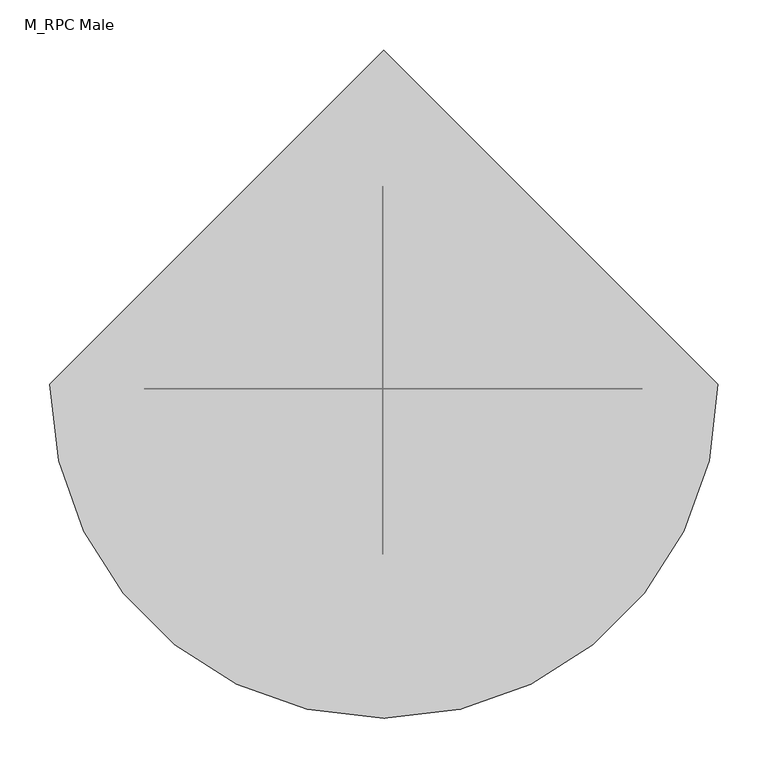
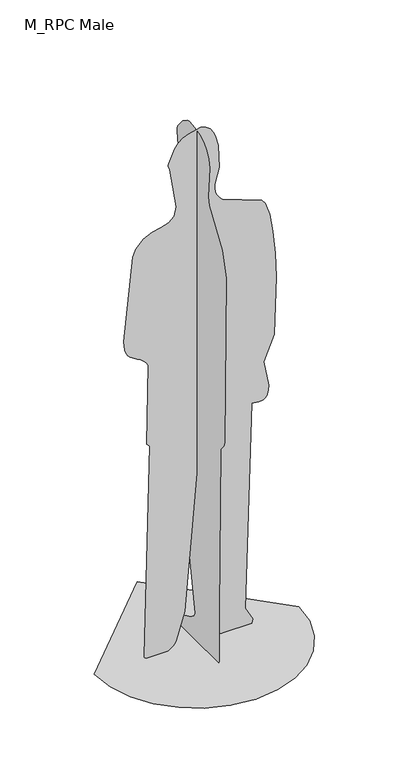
"""IFC4 building model written with IfcOpenShell, lengths in millimetres: proxy geometry, M_RPC Male : Dwayne."""

from ifc_helpers import new_model, si_unit, origin, place, context, project, spatial, triangles, source, transform, mapped, element, save


def m_rpc_male_e00c4429(model_context):
    return source(origin(), model_context, "Body", "Tessellation", [
        triangles([(-180.7519758, -4.45e-05, 5.61e-05), (-184.2427693, -8.8e-06, 2.7953145), (-186.1721755, 1.66e-05, 5.8375002), (-186.8316374, 3.35e-05, 9.127569), (-168.2846227, 8.5e-06, 733.0652109), (-173.8813015, 8.5e-06, 735.2240908), (-177.6698602, 8.1e-06, 740.93319), (-174.1985423, -8.1e-06, 1013.6682867), (-179.591309, -8.8e-06, 1024.1651751), (-188.0395216, -9.6e-06, 1032.7759867), (-198.5267085, -9.9e-06, 1040.1126028), (-210.0363257, -1.03e-05, 1046.7864687), (-221.5520472, -1.07e-05, 1053.4092476), (-232.0572199, -1.1e-05, 1060.5929661), (-240.5353907, -1.14e-05, 1068.9488514), (-245.9518842, -1.21e-05, 1078.9880642), (-249.7386988, -1.29e-05, 1091.9821838), (-252.1552483, -1.4e-05, 1106.9298906), (-253.4607645, -1.47e-05, 1122.8295742), (-224.2188539, -3.16e-05, 1405.054644), (-213.7949444, -3.31e-05, 1430.2019463), (-189.1319694, -3.46e-05, 1456.0842327), (-160.624934, -3.53e-05, 1468.8737137), (-131.9229886, -3.57e-05, 1475.6378357), (-106.6752928, -3.64e-05, 1483.4436092), (-88.5310242, -3.71e-05, 1499.3593529), (-81.1392697, -3.9e-05, 1530.4516411), (-102.942045, -4.71e-05, 1666.4696468), (-107.9472446, -4.78e-05, 1679.2650867), (-108.1474504, -4.82e-05, 1680.5741638), (-107.984815, -4.82e-05, 1682.7587688), (-107.5268306, -4.82e-05, 1685.5190655), (-106.840944, -4.86e-05, 1688.5553627), (-86.6409052, -5.11e-05, 1733.0902897), (-74.2774293, -5.19e-05, 1747.7183212), (-59.5121605, -5.26e-05, 1759.6594528), (-42.363121, -5.33e-05, 1768.7777916), (-0.9855255, -5.37e-05, 1777.9990311), (15.8808757, -5.33e-05, 1772.5528519), (29.1619555, -5.26e-05, 1761.5639877), (39.2640369, -5.19e-05, 1747.0962662), (46.5934632, -5.08e-05, 1731.2140961), (56.009163, -4.89e-05, 1695.7207684), (59.1639487, -4.41e-05, 1618.2087845), (44.4858339, -4.12e-05, 1564.7278919), (44.3096682, -4.05e-05, 1551.1862766), (46.5532813, -3.94e-05, 1537.9279289), (51.2886345, -3.86e-05, 1525.4359589), (58.5876575, -3.83e-05, 1514.1926044), (68.5223164, -3.75e-05, 1504.6808304), (198.4030241, -3.46e-05, 1454.5808361), (210.7095586, -3.38e-05, 1440.8296406), (224.9005892, -3.13e-05, 1397.8447643), (235.5369131, -2.72e-05, 1333.6069702), (242.7580384, -2.28e-05, 1256.1532677), (246.7032373, -1.77e-05, 1173.5211021), (240.2781571, -5.9e-06, 974.9290089), (206.081389, -1.1e-06, 891.6222479), (221.1961823, 4e-06, 805.6633232), (220.4650678, 5.1e-06, 788.6200321), (214.9948893, 6.3e-06, 771.8045614), (210.3552016, 6.6e-06, 765.7300776), (204.1668257, 6.6e-06, 762.0919275), (196.8959759, 7e-06, 760.3982082), (189.0090118, 7e-06, 760.1573799), (180.9721295, 7e-06, 760.8774668), (173.2515615, 6.6e-06, 762.0669291), (166.3135766, 6.6e-06, 763.2339363), (144.8011179, 4.49e-05, 59.4752896), (168.6275342, 4.74e-05, 15.3365843), (166.1985945, -4.45e-05, 5.61e-05), (66.1332089, -4.45e-05, 5.61e-05), (49.8425018, -1.03e-05, 3.9765591), (39.0246256, 1.36e-05, 14.0353), (32.5983009, 2.91e-05, 28.3297116), (-2.7441046, 9.2e-06, 720.0458748), (-54.0725034, 1.03e-05, 117.9433278), (-81.3720135, -2.13e-05, 28.0047427), (-85.5237041, -2.69e-05, 19.9172686), (-91.2433859, -3.27e-05, 12.5691172), (-99.2451413, -3.86e-05, 5.9378887), (-110.2431982, -4.45e-05, 5.61e-05), (-13.8237406, -127.6718764, 9.9621145), (-13.8237974, -127.2617633, 182.0842528), (-13.8237815, -135.2635732, 744.8695776), (-13.8237815, -136.4149928, 748.3460369), (-13.8237815, -139.3954704, 752.5736132), (-13.8237815, -143.4944026, 757.5058702), (-13.8237815, -148.0010861, 763.0962994), (-13.8237815, -152.2049901, 769.2983917), (-13.8237792, -155.3953659, 776.0656385), (-13.8237792, -156.8616281, 783.3516764), (-13.8237622, -165.9465024, 1358.6137287), (-13.8237599, -143.2743216, 1442.0927902), (-13.8237576, -71.1145501, 1552.8585583), (-13.8237576, -64.3401725, 1580.5206779), (-13.8237542, -73.5344014, 1684.7952724), (-13.8237531, -67.2131212, 1712.2161278), (-13.8237531, -55.241223, 1734.9070393), (-13.8237531, -37.9260212, 1752.7537697), (-13.8237531, -15.5748771, 1765.6426632), (-13.8237531, 11.5049084, 1773.4593372), (-13.8237531, 43.0059914, 1776.090136), (-13.8237531, 55.0860226, 1772.9164925), (-13.8237542, 79.7038559, 1756.3218658), (-13.8237554, 107.4896145, 1722.3477768), (-13.8237554, 111.5711695, 1713.01012), (-13.8237554, 112.2229284, 1702.3019073), (-13.8237588, 99.0832235, 1611.9284992), (-13.8237588, 100.6007272, 1597.8206394), (-13.8237599, 96.755177, 1579.0656796), (-13.8237622, 31.1784566, 1488.4592915), (-13.8237735, 125.7984261, 1146.7472277), (-13.8237735, 134.1993577, 1137.675107), (-13.8237747, 184.2799037, 1119.3925747), (-13.8237747, 194.4649651, 1111.9394686), (-13.8237747, 201.1343255, 1100.3801451), (-13.8237769, 203.5508567, 1084.2058416), (-13.8237769, 200.9674025, 1068.9640394), (-13.8237769, 194.2820729, 1055.8707253), (-13.8237769, 184.3928146, 1046.1415226), (-13.8237769, 172.1978105, 1040.992709), (-13.8237769, 158.595007, 1041.6399078), (-13.8237769, 144.48246, 1049.299106), (-13.8237838, 123.0429529, 785.7648285), (-13.823786, 116.906318, 707.2429499), (-13.8237928, 10.2023683, 90.6853168), (-13.823794, 17.983895, 76.1481908), (-13.8237951, 35.4714404, 63.806743), (-13.8238042, 104.5965316, 31.8661463), (-13.8238053, 119.3344402, 20.2173661), (-13.8238076, 122.9915025, 6.7192091), (-13.8238042, 122.0607091, 4.3674998), (-13.8237894, 120.3451706, 2.3141478), (-13.8237724, 119.1853577, 1.4285653), (-13.8237474, 117.8199432, 0.6534771), (-13.8237099, 116.2458387, 5.61e-05), (-13.8237077, -124.501612, 0.0), (-348.4734607, 4.7230039, 0.0001684), (-339.5987117, -72.1961519, 0.0001684), (-314.3237646, -142.8340959, 5.61e-05), (-274.6722241, -205.1669827, 5.61e-05), (-222.6681673, -257.171094, 5.61e-05), (-160.3352533, -296.8225073, 5.61e-05), (-89.6973139, -322.097527, 5.61e-05), (-12.7781649, -330.972276, 5.61e-05), (64.1409886, -322.0975634, 5.61e-05), (134.7789371, -296.8225618, 5.61e-05), (197.1118239, -257.1710577, 5.61e-05), (249.1159897, -205.1670008, 5.61e-05), (288.7673667, -142.8340595, 5.61e-05), (314.0423864, -72.1960974, 0.0001684), (322.9171354, 4.7230331, 0.0001684), (-12.7782239, 340.4182474, 0.0001684)], [[70, 71, 72], [69, 70, 72], [69, 72, 73], [69, 73, 74], [69, 74, 75], [69, 75, 76], [68, 69, 76], [82, 1, 2], [82, 2, 3], [82, 3, 4], [81, 82, 4], [80, 81, 4], [79, 80, 4], [78, 79, 4], [77, 78, 4], [77, 4, 5], [76, 77, 5], [5, 6, 7], [76, 5, 7], [76, 7, 8], [68, 76, 8], [67, 68, 8], [66, 67, 8], [65, 66, 8], [64, 65, 8], [63, 64, 8], [62, 63, 8], [61, 62, 8], [60, 61, 8], [59, 60, 8], [58, 59, 8], [57, 58, 8], [56, 57, 8], [56, 8, 9], [55, 56, 9], [55, 9, 10], [54, 55, 10], [54, 10, 11], [53, 54, 11], [53, 11, 12], [52, 53, 12], [51, 52, 12], [50, 51, 12], [50, 12, 13], [50, 13, 14], [50, 14, 15], [50, 15, 16], [50, 16, 17], [50, 17, 18], [50, 18, 19], [50, 19, 20], [50, 20, 21], [50, 21, 22], [50, 22, 23], [50, 23, 24], [50, 24, 25], [50, 25, 26], [49, 50, 26], [48, 49, 26], [48, 26, 27], [47, 48, 27], [46, 47, 27], [45, 46, 27], [44, 45, 27], [44, 27, 28], [43, 44, 28], [42, 43, 28], [42, 28, 29], [42, 29, 30], [42, 30, 31], [42, 31, 32], [42, 32, 33], [42, 33, 34], [42, 34, 35], [42, 35, 36], [42, 36, 37], [41, 42, 37], [40, 41, 37], [40, 37, 38], [40, 38, 39], [137, 138, 83], [137, 83, 84], [136, 137, 84], [135, 136, 84], [130, 131, 132], [130, 132, 133], [130, 133, 134], [130, 134, 135], [122, 123, 124], [121, 122, 124], [120, 121, 124], [119, 120, 124], [118, 119, 124], [117, 118, 124], [116, 117, 124], [115, 116, 124], [114, 115, 124], [113, 114, 124], [106, 107, 108], [105, 106, 108], [104, 105, 108], [103, 104, 108], [102, 103, 108], [101, 102, 108], [100, 101, 108], [99, 100, 108], [98, 99, 108], [97, 98, 108], [97, 108, 109], [97, 109, 110], [97, 110, 111], [96, 97, 111], [95, 96, 111], [95, 111, 112], [94, 95, 112], [93, 94, 112], [93, 112, 113], [92, 93, 113], [92, 113, 124], [92, 124, 125], [91, 92, 125], [90, 91, 125], [89, 90, 125], [88, 89, 125], [87, 88, 125], [86, 87, 125], [86, 125, 126], [85, 86, 126], [85, 126, 127], [84, 85, 127], [84, 127, 128], [135, 84, 128], [135, 128, 129], [130, 135, 129], [153, 154, 139], [152, 153, 139], [152, 139, 140], [151, 152, 140], [151, 140, 141], [151, 141, 142], [150, 151, 142], [149, 150, 142], [149, 142, 143], [149, 143, 144], [149, 144, 145], [149, 145, 146], [149, 146, 147], [149, 147, 148]], closed=False),
    ])


if __name__ == "__main__":
    model = new_model("IFC4")
    model_context = context("Model", 3, world=origin())
    ifc_project = project(units=[si_unit("LENGTHUNIT", "METRE", prefix="MILLI")], contexts=[model_context])
    site = spatial("IfcSite", under=ifc_project)
    building = spatial("IfcBuilding", under=site)
    placement = place(None, origin())
    m_rpc_male_shape = m_rpc_male_e00c4429(model_context)
    element("IfcBuildingElementProxy", 1, Name="M_RPC Male : Dwayne", ObjectType="M_RPC Male : Dwayne", at=placement, inside=building, context=model_context, shape_type="MappedRepresentation", body=[
        mapped(m_rpc_male_shape, transform((0.0, 0.0, 0.0), x_axis=(1.0, 0.0, 0.0), y_axis=(0.0, 1.0, 0.0), z_axis=(0.0, 0.0, 1.0))),
    ])
    save(model, "model.ifc")
